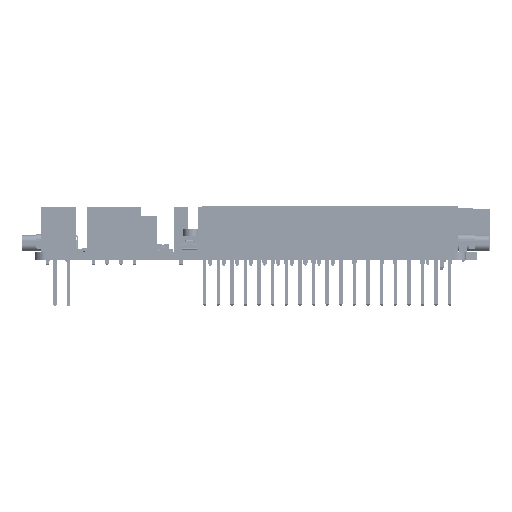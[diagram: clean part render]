
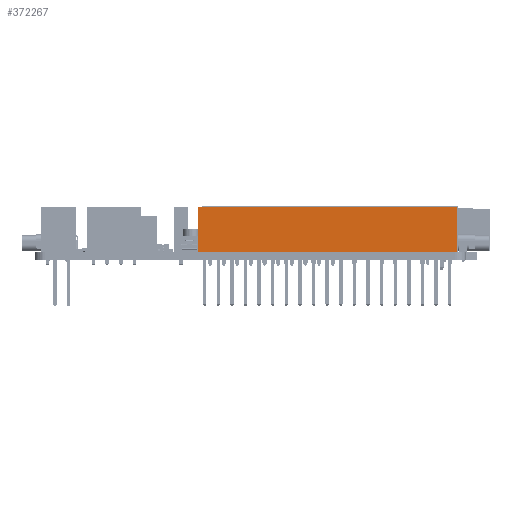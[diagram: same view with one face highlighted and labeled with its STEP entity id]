
A CAD part, left-side view. The second image highlights one B-rep face of the part: STEP entity #372267.
In plain terms, the highlighted planar face has unit normal (-1, 0, 0).
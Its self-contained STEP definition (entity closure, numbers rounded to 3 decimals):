
#372169 = EDGE_CURVE('',#372170,#372172,#372174,.T.);
#372170 = VERTEX_POINT('',#372171);
#372171 = CARTESIAN_POINT('',(-2.545,24.132,0.));
#372172 = VERTEX_POINT('',#372173);
#372173 = CARTESIAN_POINT('',(-2.545,24.132,8.38));
#372174 = LINE('',#372175,#372176);
#372175 = CARTESIAN_POINT('',(-2.545,24.132,0.));
#372176 = VECTOR('',#372177,1.);
#372177 = DIRECTION('',(0.,0.,1.));
#372242 = VERTEX_POINT('',#372243);
#372243 = CARTESIAN_POINT('',(-2.545,-24.132,8.38));
#372249 = EDGE_CURVE('',#372250,#372242,#372252,.T.);
#372250 = VERTEX_POINT('',#372251);
#372251 = CARTESIAN_POINT('',(-2.545,-24.132,0.));
#372252 = LINE('',#372253,#372254);
#372253 = CARTESIAN_POINT('',(-2.545,-24.132,0.));
#372254 = VECTOR('',#372255,1.);
#372255 = DIRECTION('',(0.,0.,1.));
#372267 = ADVANCED_FACE('',(#372268),#372284,.T.);
#372268 = FACE_BOUND('',#372269,.T.);
#372269 = EDGE_LOOP('',(#372270,#372271,#372277,#372278));
#372270 = ORIENTED_EDGE('',*,*,#372249,.T.);
#372271 = ORIENTED_EDGE('',*,*,#372272,.T.);
#372272 = EDGE_CURVE('',#372242,#372172,#372273,.T.);
#372273 = LINE('',#372274,#372275);
#372274 = CARTESIAN_POINT('',(-2.545,-24.132,8.38));
#372275 = VECTOR('',#372276,1.);
#372276 = DIRECTION('',(0.,1.,0.));
#372277 = ORIENTED_EDGE('',*,*,#372169,.F.);
#372278 = ORIENTED_EDGE('',*,*,#372279,.F.);
#372279 = EDGE_CURVE('',#372250,#372170,#372280,.T.);
#372280 = LINE('',#372281,#372282);
#372281 = CARTESIAN_POINT('',(-2.545,-24.132,0.));
#372282 = VECTOR('',#372283,1.);
#372283 = DIRECTION('',(0.,1.,0.));
#372284 = PLANE('',#372285);
#372285 = AXIS2_PLACEMENT_3D('',#372286,#372287,#372288);
#372286 = CARTESIAN_POINT('',(-2.545,-24.132,0.));
#372287 = DIRECTION('',(-1.,0.,0.));
#372288 = DIRECTION('',(0.,1.,0.));
